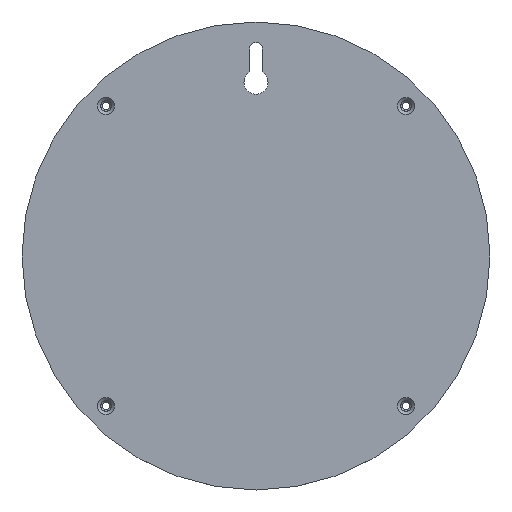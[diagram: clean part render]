
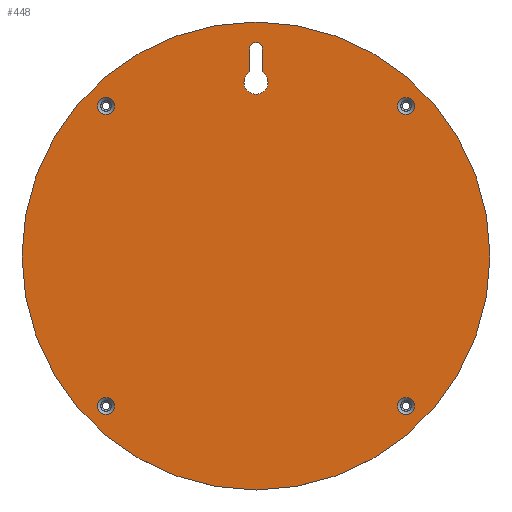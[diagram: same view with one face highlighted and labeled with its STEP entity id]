
A CAD part, top view. The second image highlights one B-rep face of the part: STEP entity #448.
In plain terms, the highlighted planar face has unit normal (0, 0, 1).
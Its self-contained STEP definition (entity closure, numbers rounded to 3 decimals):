
#310 = VERTEX_POINT('',#311);
#311 = CARTESIAN_POINT('',(67.175,-70.925,29.2));
#316 = EDGE_CURVE('',#310,#310,#317,.T.);
#317 = B_SPLINE_CURVE_WITH_KNOTS('',14,(#318,#319,#320,#321,#322,#323,
    #324,#325,#326,#327,#328,#329,#330,#331,#332),.UNSPECIFIED.,.T.,.F.,
  (15,15),(0.,10.996),.PIECEWISE_BEZIER_KNOTS.);
#318 = CARTESIAN_POINT('',(67.175,-70.925,29.2));
#319 = CARTESIAN_POINT('',(65.516,-70.925,29.2));
#320 = CARTESIAN_POINT('',(63.823,-70.135,
    29.2));
#321 = CARTESIAN_POINT('',(62.535,-68.5,
    29.2));
#322 = CARTESIAN_POINT('',(62.111,-66.269,
    29.2));
#323 = CARTESIAN_POINT('',(62.949,-63.958,
    29.2));
#324 = CARTESIAN_POINT('',(64.609,-62.408,
    29.2));
#325 = CARTESIAN_POINT('',(67.175,-61.427,
    29.2));
#326 = CARTESIAN_POINT('',(69.742,-62.408,
    29.2));
#327 = CARTESIAN_POINT('',(71.401,-63.958,
    29.2));
#328 = CARTESIAN_POINT('',(72.239,-66.269,
    29.2));
#329 = CARTESIAN_POINT('',(71.815,-68.5,
    29.2));
#330 = CARTESIAN_POINT('',(70.528,-70.135,
    29.2));
#331 = CARTESIAN_POINT('',(68.834,-70.925,29.2));
#332 = CARTESIAN_POINT('',(67.175,-70.925,29.2));
#448 = ADVANCED_FACE('',(#449,#460,#482,#485,#507,#543),#565,.T.);
#449 = FACE_BOUND('',#450,.T.);
#450 = EDGE_LOOP('',(#451));
#451 = ORIENTED_EDGE('',*,*,#452,.T.);
#452 = EDGE_CURVE('',#453,#453,#455,.T.);
#453 = VERTEX_POINT('',#454);
#454 = CARTESIAN_POINT('',(104.8,0.,29.2));
#455 = CIRCLE('',#456,104.8);
#456 = AXIS2_PLACEMENT_3D('',#457,#458,#459);
#457 = CARTESIAN_POINT('',(0.,0.,29.2));
#458 = DIRECTION('',(0.,0.,1.));
#459 = DIRECTION('',(1.,0.,0.));
#460 = FACE_BOUND('',#461,.T.);
#461 = EDGE_LOOP('',(#462));
#462 = ORIENTED_EDGE('',*,*,#463,.T.);
#463 = EDGE_CURVE('',#464,#464,#466,.T.);
#464 = VERTEX_POINT('',#465);
#465 = CARTESIAN_POINT('',(-70.925,-67.175,29.2));
#466 = B_SPLINE_CURVE_WITH_KNOTS('',14,(#467,#468,#469,#470,#471,#472,
    #473,#474,#475,#476,#477,#478,#479,#480,#481),.UNSPECIFIED.,.T.,.F.,
  (15,15),(0.,10.996),.PIECEWISE_BEZIER_KNOTS.);
#467 = CARTESIAN_POINT('',(-70.925,-67.175,29.2));
#468 = CARTESIAN_POINT('',(-70.925,-65.516,29.2));
#469 = CARTESIAN_POINT('',(-70.135,-63.823,
    29.2));
#470 = CARTESIAN_POINT('',(-68.5,-62.535,
    29.2));
#471 = CARTESIAN_POINT('',(-66.269,-62.111,
    29.2));
#472 = CARTESIAN_POINT('',(-63.958,-62.949,
    29.2));
#473 = CARTESIAN_POINT('',(-62.408,-64.609,29.2
    ));
#474 = CARTESIAN_POINT('',(-61.427,-67.175,
    29.2));
#475 = CARTESIAN_POINT('',(-62.408,-69.742,
    29.2));
#476 = CARTESIAN_POINT('',(-63.958,-71.401,
    29.2));
#477 = CARTESIAN_POINT('',(-66.269,-72.239,
    29.2));
#478 = CARTESIAN_POINT('',(-68.5,-71.815,
    29.2));
#479 = CARTESIAN_POINT('',(-70.135,-70.528,
    29.2));
#480 = CARTESIAN_POINT('',(-70.925,-68.834,29.2));
#481 = CARTESIAN_POINT('',(-70.925,-67.175,29.2));
#482 = FACE_BOUND('',#483,.T.);
#483 = EDGE_LOOP('',(#484));
#484 = ORIENTED_EDGE('',*,*,#316,.T.);
#485 = FACE_BOUND('',#486,.T.);
#486 = EDGE_LOOP('',(#487));
#487 = ORIENTED_EDGE('',*,*,#488,.T.);
#488 = EDGE_CURVE('',#489,#489,#491,.T.);
#489 = VERTEX_POINT('',#490);
#490 = CARTESIAN_POINT('',(-67.175,70.925,29.2));
#491 = B_SPLINE_CURVE_WITH_KNOTS('',14,(#492,#493,#494,#495,#496,#497,
    #498,#499,#500,#501,#502,#503,#504,#505,#506),.UNSPECIFIED.,.T.,.F.,
  (15,15),(0.,10.996),.PIECEWISE_BEZIER_KNOTS.);
#492 = CARTESIAN_POINT('',(-67.175,70.925,29.2));
#493 = CARTESIAN_POINT('',(-65.516,70.925,29.2));
#494 = CARTESIAN_POINT('',(-63.823,70.135,
    29.2));
#495 = CARTESIAN_POINT('',(-62.535,68.5,
    29.2));
#496 = CARTESIAN_POINT('',(-62.111,66.269,
    29.2));
#497 = CARTESIAN_POINT('',(-62.949,63.958,
    29.2));
#498 = CARTESIAN_POINT('',(-64.609,62.408,
    29.2));
#499 = CARTESIAN_POINT('',(-67.175,61.427,
    29.2));
#500 = CARTESIAN_POINT('',(-69.742,62.408,
    29.2));
#501 = CARTESIAN_POINT('',(-71.401,63.958,
    29.2));
#502 = CARTESIAN_POINT('',(-72.239,66.269,
    29.2));
#503 = CARTESIAN_POINT('',(-71.815,68.5,
    29.2));
#504 = CARTESIAN_POINT('',(-70.528,70.135,
    29.2));
#505 = CARTESIAN_POINT('',(-68.834,70.925,29.2));
#506 = CARTESIAN_POINT('',(-67.175,70.925,29.2));
#507 = FACE_BOUND('',#508,.T.);
#508 = EDGE_LOOP('',(#509,#519,#528,#536));
#509 = ORIENTED_EDGE('',*,*,#510,.F.);
#510 = EDGE_CURVE('',#511,#513,#515,.T.);
#511 = VERTEX_POINT('',#512);
#512 = CARTESIAN_POINT('',(2.9,82.455,29.2));
#513 = VERTEX_POINT('',#514);
#514 = CARTESIAN_POINT('',(2.9,92.7,29.2));
#515 = LINE('',#516,#517);
#516 = CARTESIAN_POINT('',(2.9,46.35,29.2));
#517 = VECTOR('',#518,1.);
#518 = DIRECTION('',(0.,1.,0.));
#519 = ORIENTED_EDGE('',*,*,#520,.T.);
#520 = EDGE_CURVE('',#511,#521,#523,.T.);
#521 = VERTEX_POINT('',#522);
#522 = CARTESIAN_POINT('',(-2.9,82.455,29.2));
#523 = CIRCLE('',#524,5.4);
#524 = AXIS2_PLACEMENT_3D('',#525,#526,#527);
#525 = CARTESIAN_POINT('',(0.,77.9,29.2));
#526 = DIRECTION('',(0.,0.,-1.));
#527 = DIRECTION('',(1.,0.,0.));
#528 = ORIENTED_EDGE('',*,*,#529,.F.);
#529 = EDGE_CURVE('',#530,#521,#532,.T.);
#530 = VERTEX_POINT('',#531);
#531 = CARTESIAN_POINT('',(-2.9,92.7,29.2));
#532 = LINE('',#533,#534);
#533 = CARTESIAN_POINT('',(-2.9,41.228,29.2));
#534 = VECTOR('',#535,1.);
#535 = DIRECTION('',(0.,-1.,0.));
#536 = ORIENTED_EDGE('',*,*,#537,.T.);
#537 = EDGE_CURVE('',#530,#513,#538,.T.);
#538 = CIRCLE('',#539,2.9);
#539 = AXIS2_PLACEMENT_3D('',#540,#541,#542);
#540 = CARTESIAN_POINT('',(0.,92.7,29.2));
#541 = DIRECTION('',(0.,0.,-1.));
#542 = DIRECTION('',(1.,0.,0.));
#543 = FACE_BOUND('',#544,.T.);
#544 = EDGE_LOOP('',(#545));
#545 = ORIENTED_EDGE('',*,*,#546,.T.);
#546 = EDGE_CURVE('',#547,#547,#549,.T.);
#547 = VERTEX_POINT('',#548);
#548 = CARTESIAN_POINT('',(70.925,67.175,29.2));
#549 = B_SPLINE_CURVE_WITH_KNOTS('',14,(#550,#551,#552,#553,#554,#555,
    #556,#557,#558,#559,#560,#561,#562,#563,#564),.UNSPECIFIED.,.T.,.F.,
  (15,15),(0.,10.996),.PIECEWISE_BEZIER_KNOTS.);
#550 = CARTESIAN_POINT('',(70.925,67.175,29.2));
#551 = CARTESIAN_POINT('',(70.925,65.516,29.2));
#552 = CARTESIAN_POINT('',(70.135,63.823,
    29.2));
#553 = CARTESIAN_POINT('',(68.5,62.535,
    29.2));
#554 = CARTESIAN_POINT('',(66.269,62.111,
    29.2));
#555 = CARTESIAN_POINT('',(63.958,62.949,
    29.2));
#556 = CARTESIAN_POINT('',(62.408,64.609,
    29.2));
#557 = CARTESIAN_POINT('',(61.427,67.175,
    29.2));
#558 = CARTESIAN_POINT('',(62.408,69.742,
    29.2));
#559 = CARTESIAN_POINT('',(63.958,71.401,
    29.2));
#560 = CARTESIAN_POINT('',(66.269,72.239,
    29.2));
#561 = CARTESIAN_POINT('',(68.5,71.815,
    29.2));
#562 = CARTESIAN_POINT('',(70.135,70.528,
    29.2));
#563 = CARTESIAN_POINT('',(70.925,68.834,29.2));
#564 = CARTESIAN_POINT('',(70.925,67.175,29.2));
#565 = PLANE('',#566);
#566 = AXIS2_PLACEMENT_3D('',#567,#568,#569);
#567 = CARTESIAN_POINT('',(0.,0.,29.2));
#568 = DIRECTION('',(0.,0.,1.));
#569 = DIRECTION('',(1.,0.,0.));
